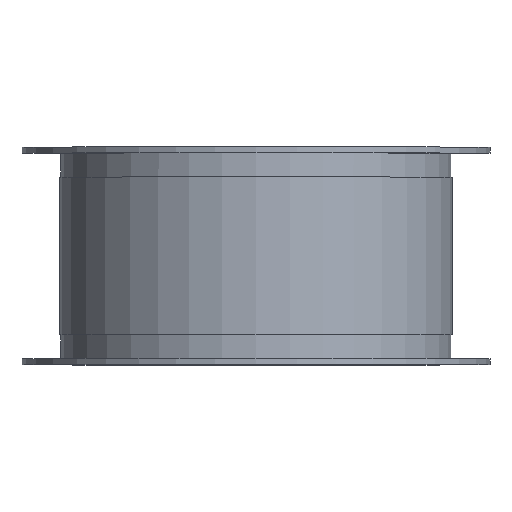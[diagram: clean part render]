
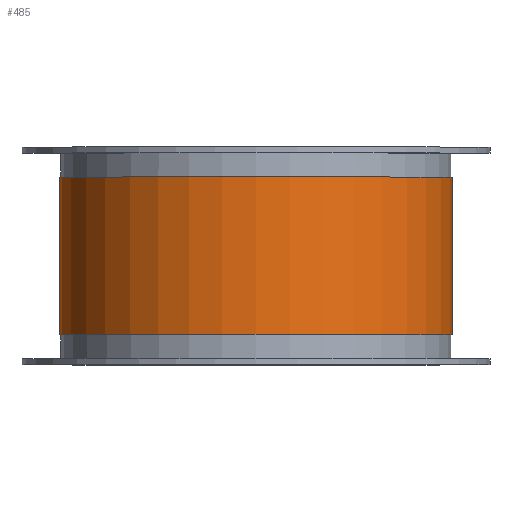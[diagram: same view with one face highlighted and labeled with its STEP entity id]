
A CAD part, top view. The second image highlights one B-rep face of the part: STEP entity #485.
In plain terms, the highlighted cylindrical face has radius 131 mm (diameter 262 mm), a full revolution.
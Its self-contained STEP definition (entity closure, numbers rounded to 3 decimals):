
#14=CYLINDRICAL_SURFACE('',#529,131.);
#40=FACE_BOUND('',#139,.T.);
#104=FACE_OUTER_BOUND('',#138,.T.);
#138=EDGE_LOOP('',(#378));
#139=EDGE_LOOP('',(#379));
#230=CIRCLE('',#524,131.);
#232=CIRCLE('',#527,131.);
#278=VERTEX_POINT('',#767);
#280=VERTEX_POINT('',#772);
#326=EDGE_CURVE('',#278,#278,#230,.T.);
#328=EDGE_CURVE('',#280,#280,#232,.T.);
#378=ORIENTED_EDGE('',*,*,#328,.F.);
#379=ORIENTED_EDGE('',*,*,#326,.T.);
#485=ADVANCED_FACE('',(#104,#40),#14,.T.);
#524=AXIS2_PLACEMENT_3D('',#768,#607,#608);
#527=AXIS2_PLACEMENT_3D('',#773,#613,#614);
#529=AXIS2_PLACEMENT_3D('',#776,#617,#618);
#607=DIRECTION('center_axis',(0.,1.,0.));
#608=DIRECTION('ref_axis',(1.,0.,0.));
#613=DIRECTION('center_axis',(0.,1.,0.));
#614=DIRECTION('ref_axis',(1.,0.,0.));
#617=DIRECTION('center_axis',(0.,1.,0.));
#618=DIRECTION('ref_axis',(0.,0.,1.));
#767=CARTESIAN_POINT('',(0.,-52.5,131.));
#768=CARTESIAN_POINT('Origin',(0.,-52.5,0.));
#772=CARTESIAN_POINT('',(0.,52.5,131.));
#773=CARTESIAN_POINT('Origin',(0.,52.5,0.));
#776=CARTESIAN_POINT('Origin',(0.,0.,0.));
